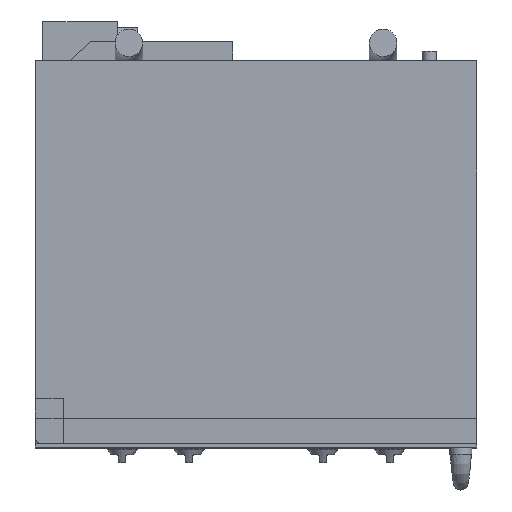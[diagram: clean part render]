
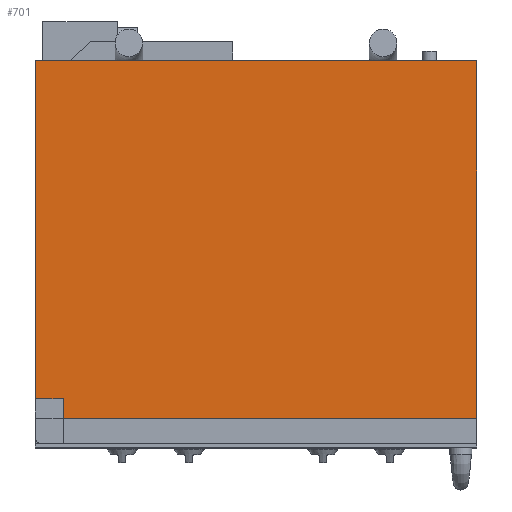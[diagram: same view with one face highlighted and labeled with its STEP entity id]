
A CAD part, top view. The second image highlights one B-rep face of the part: STEP entity #701.
In plain terms, the highlighted planar face has unit normal (0, 0, 1).
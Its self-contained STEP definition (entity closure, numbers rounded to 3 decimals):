
#701=ADVANCED_FACE('',(#1060),#892,.F.);
#892=PLANE('',#3797);
#1060=FACE_OUTER_BOUND('',#1275,.T.);
#1275=EDGE_LOOP('',(#1876,#1877,#1878,#1879,#1880,#1881));
#1876=ORIENTED_EDGE('',*,*,#2862,.F.);
#1877=ORIENTED_EDGE('',*,*,#2863,.F.);
#1878=ORIENTED_EDGE('',*,*,#2857,.T.);
#1879=ORIENTED_EDGE('',*,*,#2864,.T.);
#1880=ORIENTED_EDGE('',*,*,#2865,.F.);
#1881=ORIENTED_EDGE('',*,*,#2866,.F.);
#2479=VERTEX_POINT('',#5712);
#2480=VERTEX_POINT('',#5714);
#2484=VERTEX_POINT('',#5724);
#2485=VERTEX_POINT('',#5725);
#2486=VERTEX_POINT('',#5728);
#2487=VERTEX_POINT('',#5730);
#2857=EDGE_CURVE('',#2480,#2479,#3231,.T.);
#2862=EDGE_CURVE('',#2484,#2485,#3236,.T.);
#2863=EDGE_CURVE('',#2480,#2484,#3237,.T.);
#2864=EDGE_CURVE('',#2479,#2486,#3238,.T.);
#2865=EDGE_CURVE('',#2487,#2486,#3239,.T.);
#2866=EDGE_CURVE('',#2485,#2487,#3240,.T.);
#3231=LINE('',#5713,#3523);
#3236=LINE('',#5723,#3528);
#3237=LINE('',#5726,#3529);
#3238=LINE('',#5727,#3530);
#3239=LINE('',#5729,#3531);
#3240=LINE('',#5731,#3532);
#3523=VECTOR('',#4425,1.);
#3528=VECTOR('',#4432,1.);
#3529=VECTOR('',#4433,1.);
#3530=VECTOR('',#4434,1.);
#3531=VECTOR('',#4435,1.);
#3532=VECTOR('',#4436,1.);
#3797=AXIS2_PLACEMENT_3D('',#5732,#4437,#4438);
#4425=DIRECTION('',(1.,0.,0.));
#4432=DIRECTION('',(-1.,0.,0.));
#4433=DIRECTION('',(0.,1.,0.));
#4434=DIRECTION('',(0.,1.,0.));
#4435=DIRECTION('',(1.,0.,0.));
#4436=DIRECTION('',(0.,1.,0.));
#4437=DIRECTION('',(0.,0.,-1.));
#4438=DIRECTION('',(1.,0.,0.));
#5712=CARTESIAN_POINT('',(709.525,290.083,482.6));
#5713=CARTESIAN_POINT('',(-88.475,290.083,482.6));
#5714=CARTESIAN_POINT('',(-37.975,290.083,482.6));
#5723=CARTESIAN_POINT('',(-37.975,326.083,482.6));
#5724=CARTESIAN_POINT('',(-37.975,326.083,482.6));
#5725=CARTESIAN_POINT('',(-88.475,326.083,482.6));
#5726=CARTESIAN_POINT('',(-37.975,244.833,482.6));
#5727=CARTESIAN_POINT('',(709.525,290.083,482.6));
#5728=CARTESIAN_POINT('',(709.525,937.583,482.6));
#5729=CARTESIAN_POINT('',(-88.475,937.583,482.6));
#5730=CARTESIAN_POINT('',(-88.475,937.583,482.6));
#5731=CARTESIAN_POINT('',(-88.475,290.083,482.6));
#5732=CARTESIAN_POINT('',(-88.475,290.083,482.6));
